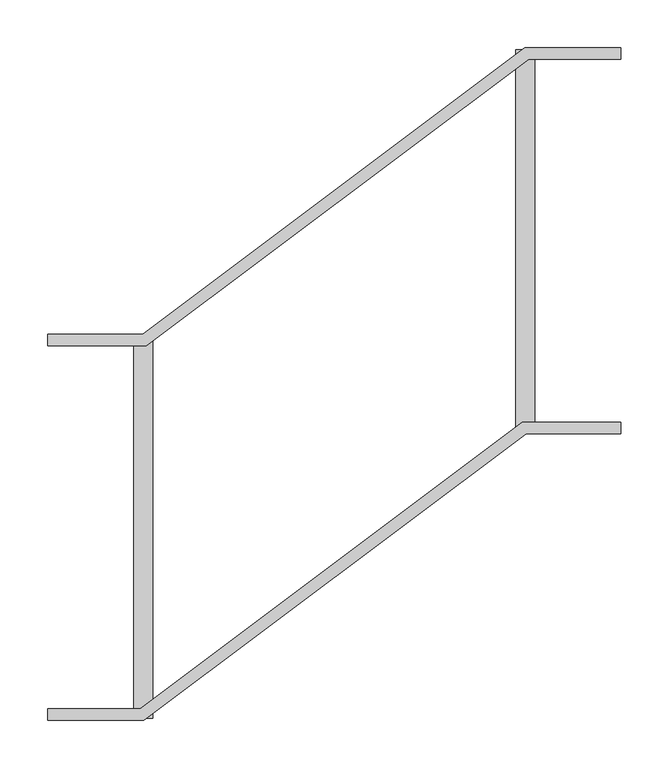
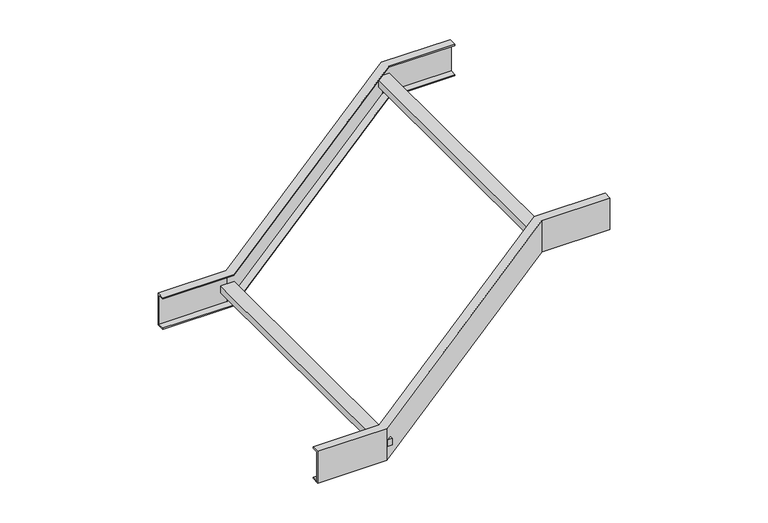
"""IFC4 building model written with IfcOpenShell, lengths in millimetres: cable carrier fitting geometry, BAKS_LD_CONN_Univarsal connector offset_LLUS : LLUS_H45."""

from ifc_helpers import new_model, si_unit, frame, origin, place, context, project, spatial, polyline, outline, extrude, faceted_brep, source, transform, mapped, element, save


def cable_carrier_fitting_d493446b(model_context):
    return source(origin(), model_context, "Body", "SolidModel", [
        extrude(outline(polyline([(20.0, 200.0), (40.0, 200.0), (40.0, -200.0), (20.0, -200.0), (20.0, 200.0)])), frame((0.0, 0.0, -5.0), z_axis=(0.0, 0.0, 1.0), x_axis=(1.0, 0.0, 0.0)), (0.0, 0.0, 1.0), 10.0),
        extrude(outline(polyline([(440.0, 100.0), (420.0, 100.0), (420.0, 500.0), (440.0, 500.0), (440.0, 100.0)])), frame((0.0, 0.0, -5.0), z_axis=(0.0, 0.0, 1.0), x_axis=(1.0, 0.0, 0.0)), (0.0, 0.0, 1.0), 10.0),
        faceted_brep([(-70.0, -190.0, 24.5), (-70.0, -190.0, 22.5), (-70.0, -200.0, 22.5), (-70.0, -200.0, -22.5), (-70.0, -190.0, -22.5), (-70.0, -190.0, -24.5), (-70.0, -202.0, -24.5), (-70.0, -202.0, 24.5), (26.6666667, -190.0, 24.5), (26.6666667, -190.0, 22.5), (426.6666667, 110.0, 22.5), (530.0, 110.0, 22.5), (530.0, 100.0, 22.5), (430.0, 100.0, 22.5), (30.0, -200.0, 22.5), (30.0, -200.0, -22.5), (430.0, 100.0, -22.5), (530.0, 100.0, -22.5), (530.0, 110.0, -22.5), (426.6666667, 110.0, -22.5), (26.6666667, -190.0, -22.5), (26.6666667, -190.0, -24.5), (426.6666667, 110.0, -24.5), (530.0, 110.0, -24.5), (530.0, 98.0, -24.5), (430.6666667, 98.0, -24.5), (30.6666667, -202.0, -24.5), (30.6666667, -202.0, 24.5), (430.6666667, 98.0, 24.5), (530.0, 98.0, 24.5), (530.0, 110.0, 24.5), (426.6666667, 110.0, 24.5)], [[[0, 1, 2, 3, 4, 5, 6, 7]], [[1, 0, 8, 9]], [[2, 1, 9, 10, 11, 12, 13, 14]], [[3, 2, 14, 15]], [[4, 3, 15, 16, 17, 18, 19, 20]], [[5, 4, 20, 21]], [[6, 5, 21, 22, 23, 24, 25, 26]], [[7, 6, 26, 27]], [[0, 7, 27, 28, 29, 30, 31, 8]], [[9, 8, 31, 10]], [[15, 14, 13, 16]], [[21, 20, 19, 22]], [[27, 26, 25, 28]], [[30, 29, 24, 23, 18, 17, 12, 11]], [[10, 31, 30, 11]], [[16, 13, 12, 17]], [[22, 19, 18, 23]], [[28, 25, 24, 29]]]),
        faceted_brep([(530.0, 490.0, 24.5), (530.0, 490.0, 22.5), (530.0, 500.0, 22.5), (530.0, 500.0, -22.5), (530.0, 490.0, -22.5), (530.0, 490.0, -24.5), (530.0, 502.0, -24.5), (530.0, 502.0, 24.5), (433.3333333, 490.0, 24.5), (433.3333333, 490.0, 22.5), (33.3333333, 190.0, 22.5), (-70.0, 190.0, 22.5), (-70.0, 200.0, 22.5), (30.0, 200.0, 22.5), (430.0, 500.0, 22.5), (430.0, 500.0, -22.5), (30.0, 200.0, -22.5), (-70.0, 200.0, -22.5), (-70.0, 190.0, -22.5), (33.3333333, 190.0, -22.5), (433.3333333, 490.0, -22.5), (433.3333333, 490.0, -24.5), (33.3333333, 190.0, -24.5), (-70.0, 190.0, -24.5), (-70.0, 202.0, -24.5), (29.3333333, 202.0, -24.5), (429.3333333, 502.0, -24.5), (429.3333333, 502.0, 24.5), (29.3333333, 202.0, 24.5), (-70.0, 202.0, 24.5), (-70.0, 190.0, 24.5), (33.3333333, 190.0, 24.5)], [[[0, 1, 2, 3, 4, 5, 6, 7]], [[1, 0, 8, 9]], [[2, 1, 9, 10, 11, 12, 13, 14]], [[3, 2, 14, 15]], [[4, 3, 15, 16, 17, 18, 19, 20]], [[5, 4, 20, 21]], [[6, 5, 21, 22, 23, 24, 25, 26]], [[7, 6, 26, 27]], [[0, 7, 27, 28, 29, 30, 31, 8]], [[9, 8, 31, 10]], [[15, 14, 13, 16]], [[21, 20, 19, 22]], [[27, 26, 25, 28]], [[30, 29, 24, 23, 18, 17, 12, 11]], [[10, 31, 30, 11]], [[16, 13, 12, 17]], [[22, 19, 18, 23]], [[28, 25, 24, 29]]]),
    ])


if __name__ == "__main__":
    model = new_model("IFC4")
    model_context = context("Model", 3, world=origin())
    ifc_project = project(units=[si_unit("LENGTHUNIT", "METRE", prefix="MILLI")], contexts=[model_context])
    site = spatial("IfcSite", under=ifc_project)
    building = spatial("IfcBuilding", under=site)
    placement = place(None, origin())
    cable_carrier_fitting_shape = cable_carrier_fitting_d493446b(model_context)
    element("IfcCableCarrierFitting", 1, ObjectType="BAKS_LD_CONN_Univarsal connector offset_LLUS : LLUS_H45", at=placement, inside=building, context=model_context, shape_type="MappedRepresentation", body=[
        mapped(cable_carrier_fitting_shape, transform((0.0, 0.0, 0.0), x_axis=(1.0, 0.0, 0.0), y_axis=(0.0, 1.0, 0.0), z_axis=(0.0, 0.0, 1.0))),
    ])
    save(model, "model.ifc")
